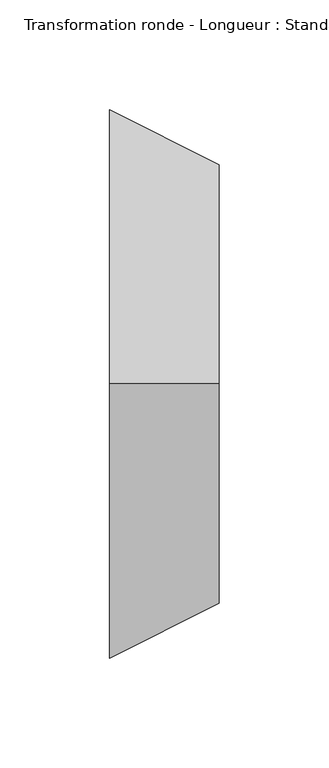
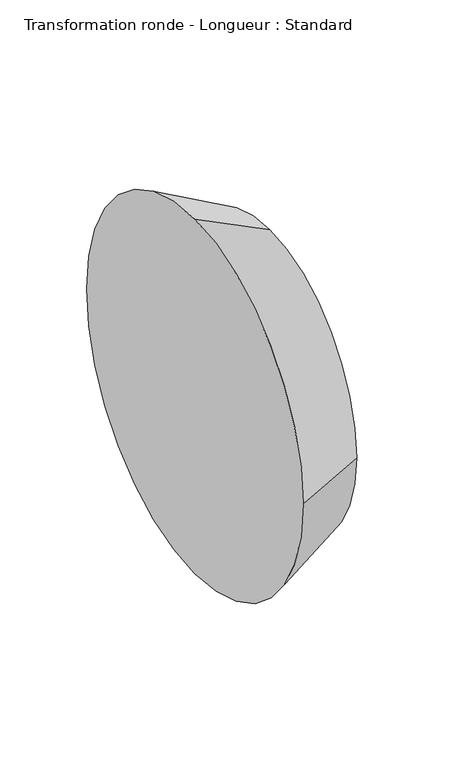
"""IFC4 building model written with IfcOpenShell, lengths in millimetres: duct fitting geometry, Transformation ronde - Longueur : Standard."""

from ifc_helpers import new_model, si_unit, frame, origin, place, context, project, spatial, circle_curve, source, transform, mapped, element, save
from ifc_brep_helpers import plane_surface, spline_surface, advanced_brep


def transformation_ronde_longueur_standard_dc48531b(model_context):
    return source(origin(), model_context, "Body", "AdvancedBrep", [
        advanced_brep(
        [(50.0, -99.9999246, 0.0), (50.0, 7.54e-05, -100.0), (50.0, 100.0000754, 0.0), (50.0, 7.54e-05, 100.0), (0.0, -125.0, 0.0), (0.0, 0.0, 125.0), (0.0, 125.0, 0.0), (0.0, 0.0, -125.0)],
        [
            (0, 1, circle_curve(frame((50.0, 7.54e-05, 0.0), z_axis=(1.0, 0.0, 0.0), x_axis=(0.0, -1.0, 0.0)), 100.0)),
            (1, 2, circle_curve(frame((50.0, 7.54e-05, 0.0), z_axis=(1.0, 0.0, 0.0), x_axis=(0.0, -1.0, 0.0)), 100.0)),
            (2, 3, circle_curve(frame((50.0, 7.54e-05, 0.0), z_axis=(1.0, 0.0, 0.0), x_axis=(0.0, -1.0, 0.0)), 100.0)),
            (3, 0, circle_curve(frame((50.0, 7.54e-05, 0.0), z_axis=(1.0, 0.0, 0.0), x_axis=(0.0, -1.0, 0.0)), 100.0)),
            (4, 5, circle_curve(frame((0.0, 0.0, 0.0), z_axis=(-1.0, 0.0, 0.0), x_axis=(0.0, -1.0, 0.0)), 125.0)),
            (5, 6, circle_curve(frame((0.0, 0.0, 0.0), z_axis=(-1.0, 0.0, 0.0), x_axis=(0.0, -1.0, 0.0)), 125.0)),
            (6, 7, circle_curve(frame((0.0, 0.0, 0.0), z_axis=(-1.0, 0.0, 0.0), x_axis=(0.0, -1.0, 0.0)), 125.0)),
            (7, 4, circle_curve(frame((0.0, 0.0, 0.0), z_axis=(-1.0, 0.0, 0.0), x_axis=(0.0, -1.0, 0.0)), 125.0)),
            (3, 5),
            (4, 0),
            (2, 6),
            (1, 7),
        ],
        [
            plane_surface(frame((50.0, 7.54e-05, 0.0), z_axis=(1.0, 0.0, 0.0), x_axis=(0.0, 0.0, 1.0))),
            plane_surface(frame((0.0, 0.0, 0.0), z_axis=(-1.0, 0.0, 0.0), x_axis=(0.0, 0.0, 1.0))),
            spline_surface(1, 2, [[(0.0, -125.0, 0.0), (0.0, -125.0, 125.0), (0.0, 0.0, 125.0)], [(50.0, -99.9999246, 0.0), (50.0, -99.9999246, 100.0), (50.0, 7.54e-05, 100.0)]], [2, 2], [3, 3], [0.0, 1.0], [0.0, 1.0], weights=[[1.0, 0.7071067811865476, 1.0], [1.0, 0.7071067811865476, 1.0]]),
            spline_surface(1, 2, [[(0.0, 0.0, 125.0), (0.0, 125.0, 125.0), (0.0, 125.0, 0.0)], [(50.0, 7.54e-05, 100.0), (50.0, 100.0000754, 100.0), (50.0, 100.0000754, 0.0)]], [2, 2], [3, 3], [0.0, 1.0], [0.0, 1.0], weights=[[1.0, 0.7071067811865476, 1.0], [1.0, 0.7071067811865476, 1.0]]),
            spline_surface(1, 2, [[(0.0, 125.0, 0.0), (0.0, 125.0, -125.0), (0.0, 0.0, -125.0)], [(50.0, 100.0000754, 0.0), (50.0, 100.0000754, -100.0), (50.0, 7.54e-05, -100.0)]], [2, 2], [3, 3], [0.0, 1.0], [0.0, 1.0], weights=[[1.0, 0.7071067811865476, 1.0], [1.0, 0.7071067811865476, 1.0]]),
            spline_surface(1, 2, [[(0.0, 0.0, -125.0), (0.0, -125.0, -125.0), (0.0, -125.0, 0.0)], [(50.0, 7.54e-05, -100.0), (50.0, -99.9999246, -100.0), (50.0, -99.9999246, 0.0)]], [2, 2], [3, 3], [0.0, 1.0], [0.0, 1.0], weights=[[1.0, 0.7071067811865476, 1.0], [1.0, 0.7071067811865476, 1.0]]),
        ],
        [
            (0, [[1, 2, 3, 4]]),
            (1, [[5, 6, 7, 8]]),
            (2, [[9, -5, 10, -4]]),
            (3, [[11, -6, -9, -3]]),
            (4, [[12, -7, -11, -2]]),
            (5, [[-10, -8, -12, -1]]),
        ],
    ),
    ])


if __name__ == "__main__":
    model = new_model("IFC4")
    model_context = context("Model", 3, world=origin())
    ifc_project = project(units=[si_unit("LENGTHUNIT", "METRE", prefix="MILLI")], contexts=[model_context])
    site = spatial("IfcSite", under=ifc_project)
    building = spatial("IfcBuilding", under=site)
    placement = place(None, origin())
    transformation_ronde_longueur_standard_shape = transformation_ronde_longueur_standard_dc48531b(model_context)
    element("IfcDuctFitting", 1, ObjectType="Transformation ronde - Longueur : Standard", at=placement, inside=building, context=model_context, shape_type="MappedRepresentation", body=[
        mapped(transformation_ronde_longueur_standard_shape, transform((0.0, 0.0, 0.0), x_axis=(1.0, 0.0, 0.0), y_axis=(0.0, 1.0, 0.0), z_axis=(0.0, 0.0, 1.0))),
    ])
    save(model, "model.ifc")
